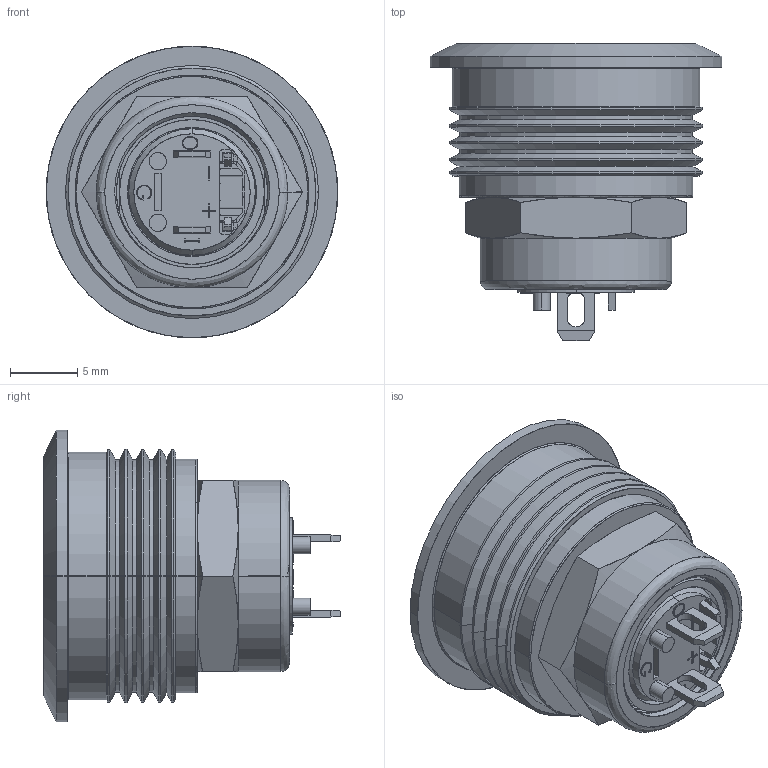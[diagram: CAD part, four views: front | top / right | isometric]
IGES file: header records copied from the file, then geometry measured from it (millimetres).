
Start section: SolidWorks IGES file using analytic representation for surfaces
Global section: file name: D:\files for website iges\48M-110N.IGS; native system: SolidWorks 2009; preprocessor: SolidWorks 2009; author: julie; date: 100902.111323; units: inch
Bounding box: 21.65 x 22.06 x 21.65 mm (x, y, z)
Surface area: 5470.4 mm2 (no closed solid volume)
Topology: 0 solids, 0 shells, 584 faces, 5558 edges, 5558 vertices
Faces by surface type: bspline 352, revolution 232
